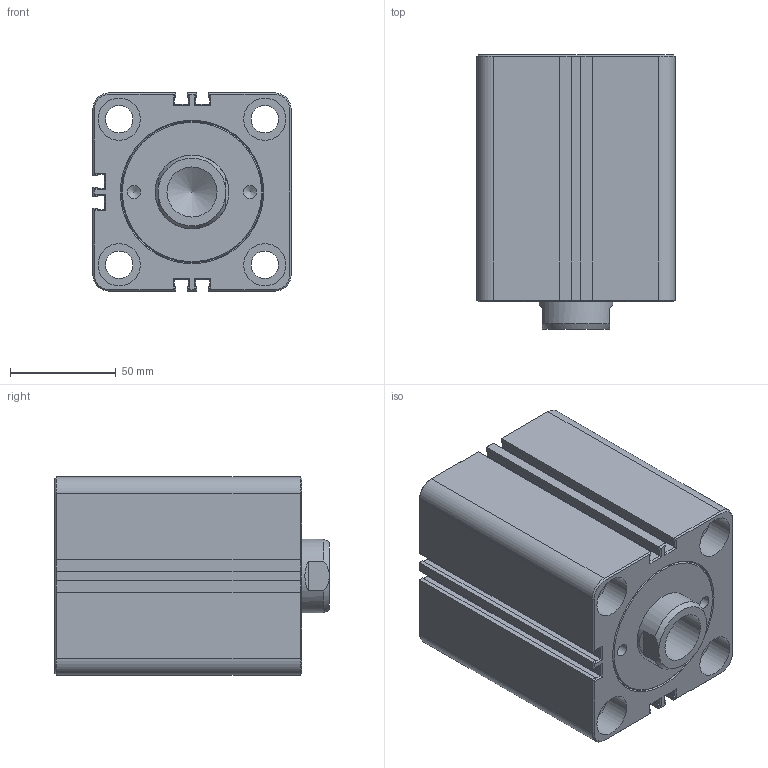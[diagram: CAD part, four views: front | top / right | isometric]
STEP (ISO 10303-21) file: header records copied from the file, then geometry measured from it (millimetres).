
FILE_DESCRIPTION(/* description */ ('Unknown'),/* implementation_level */ '2;1');
FILE_NAME(/* name */ 'HTM70-SD63X50N',/* time_stamp */ '2022-08-31T02:51:20+08:00',/* author */ ('Unknown'),/* organization */ ('Unknown'),/* preprocessor_version */ 'ST-DEVELOPER v16.7',/* originating_system */ 'DEX',/* authorisation */ $);
FILE_SCHEMA (('AUTOMOTIVE_DESIGN {1 0 10303 214 3 1 1}'));
Length unit declared in the file: millimetre
Products named in the file (1): HTM70-SD63X50N
Bounding box: 94 x 130 x 94 mm (x, y, z)
Volume: 912296.5 mm3; surface area: 94787.5 mm2
Topology: 1 solids, 1 shells, 235 faces, 540 edges, 321 vertices
Faces by surface type: plane 176, cone 24, cylinder 23, bspline 12
Full cylindrical faces by diameter (mm): 6 x1, 6.1 x2, 13 x4, 15.806 x2, 20 x8, 23.752 x1, 35 x1
Entity records: 8001 total; most frequent: CARTESIAN_POINT 1285, ORIENTED_EDGE 1002, DIRECTION 992, EDGE_CURVE 501, LINE 390, VECTOR 390, VERTEX_POINT 312, AXIS2_PLACEMENT_3D 301
